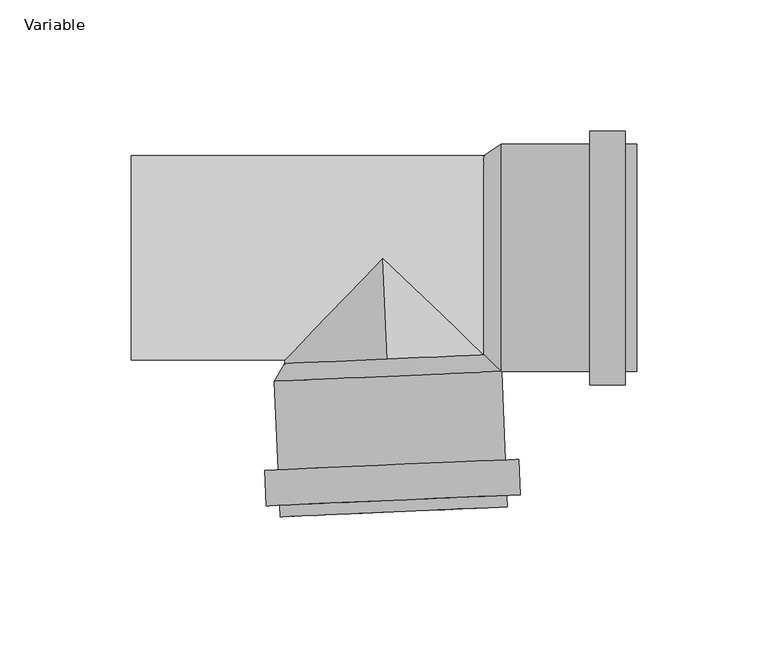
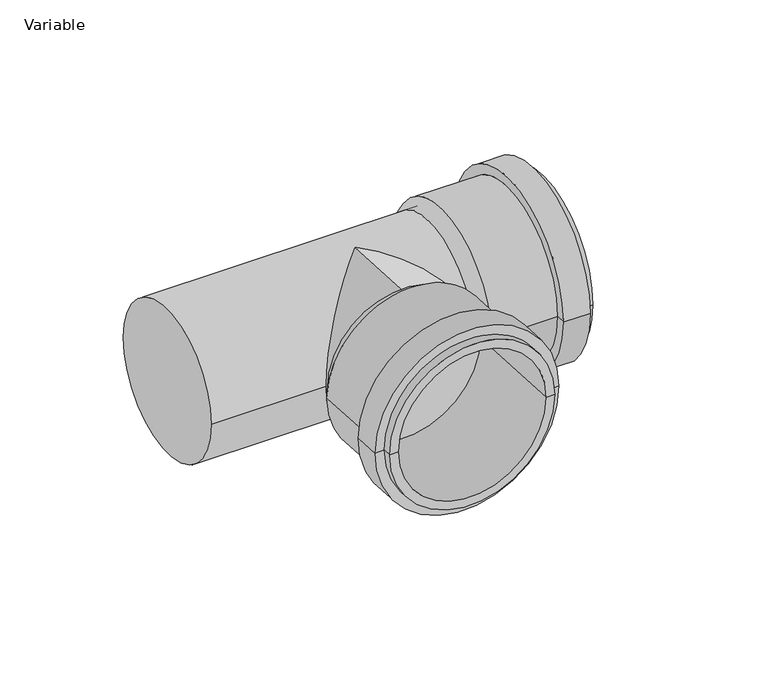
"""IFC4 building model written with IfcOpenShell, lengths in millimetres: pipe fitting geometry, AliaxisFR_Friaphon_Branch_FR : Variable."""

from ifc_helpers import new_model, si_unit, frame, origin, place, context, project, spatial, polyline, circle_curve, ellipse_curve, source, transform, mapped, element, save
from ifc_brep_helpers import plane_surface, cylinder_surface, revolved_surface, advanced_brep


def variable_031db8d6(model_context):
    return source(origin(), model_context, "Body", "AdvancedBrep", [
        advanced_brep(
        [(-39.1276122, -98.8007589, 0.0), (47.5897734, -95.0145961, 0.0), (43.1939612, -95.2065214, 0.0), (-34.7318001, -98.6088336, 0.0), (-45.0079071, -81.0403498, 0.0), (51.8997703, -76.8092692, 0.0), (52.492994, -90.396325, 0.0), (-44.4146835, -94.6274056, 0.0), (-39.9127612, -80.8178909, 0.0), (46.8046244, -77.0317281, 0.0), (-41.3870965, -47.050061, 0.0), (45.3302891, -43.2638982, 0.0), (40.646589, -36.8621052, 0.0), (-37.2791723, -40.2644175, 0.0), (-39.3195375, -94.4049467, 0.0), (47.3978481, -90.6187839, 0.0)],
        [
            (0, 1, circle_curve(frame((4.2310806, -96.9076775, 0.0), z_axis=(0.04361938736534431, -0.9990482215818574, 0.0), x_axis=(0.9990482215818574, 0.04361938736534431, 0.0)), 43.4)),
            (1, 2),
            (2, 3, circle_curve(frame((4.2310806, -96.9076775, 0.0), z_axis=(-0.04361938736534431, 0.9990482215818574, 0.0), x_axis=(0.9990482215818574, 0.04361938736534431, 0.0)), 39.0)),
            (3, 0),
            (1, 0, circle_curve(frame((4.2310806, -96.9076775, 0.0), z_axis=(0.04361938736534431, -0.9990482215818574, 0.0), x_axis=(0.9990482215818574, 0.04361938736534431, 0.0)), 43.4)),
            (3, 2, circle_curve(frame((4.2310806, -96.9076775, 0.0), z_axis=(-0.04361938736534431, 0.9990482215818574, 0.0), x_axis=(0.9990482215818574, 0.04361938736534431, 0.0)), 39.0)),
            (4, 5, circle_curve(frame((3.4459316, -78.9248095, 0.0), z_axis=(0.04361938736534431, -0.9990482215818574, 0.0), x_axis=(0.9990482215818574, 0.04361938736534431, 0.0)), 48.5)),
            (5, 6),
            (6, 7, circle_curve(frame((4.0391553, -92.5118653, 0.0), z_axis=(-0.04361938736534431, 0.9990482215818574, 0.0), x_axis=(0.9990482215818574, 0.04361938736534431, 0.0)), 48.5)),
            (7, 4),
            (5, 4, circle_curve(frame((3.4459316, -78.9248095, 0.0), z_axis=(0.04361938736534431, -0.9990482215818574, 0.0), x_axis=(0.9990482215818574, 0.04361938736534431, 0.0)), 48.5)),
            (7, 6, circle_curve(frame((4.0391553, -92.5118653, 0.0), z_axis=(-0.04361938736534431, 0.9990482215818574, 0.0), x_axis=(0.9990482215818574, 0.04361938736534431, 0.0)), 48.5)),
            (8, 9, circle_curve(frame((3.4459316, -78.9248095, 0.0), z_axis=(0.04361938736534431, -0.9990482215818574, 0.0), x_axis=(0.9990482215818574, 0.04361938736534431, 0.0)), 43.4)),
            (9, 5),
            (4, 8),
            (9, 8, circle_curve(frame((3.4459316, -78.9248095, 0.0), z_axis=(0.04361938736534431, -0.9990482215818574, 0.0), x_axis=(0.9990482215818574, 0.04361938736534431, 0.0)), 43.4)),
            (10, 11, circle_curve(frame((1.9715963, -45.1569796, 0.0), z_axis=(0.04361938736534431, -0.9990482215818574, 0.0), x_axis=(0.9990482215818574, 0.04361938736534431, 0.0)), 43.4)),
            (11, 9),
            (8, 10),
            (11, 10, circle_curve(frame((1.9715963, -45.1569796, 0.0), z_axis=(0.04361938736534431, -0.9990482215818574, 0.0), x_axis=(0.9990482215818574, 0.04361938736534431, 0.0)), 43.4)),
            (2, 12),
            (12, 13, circle_curve(frame((1.6837084, -38.5632614, 0.0), z_axis=(-0.04361938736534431, 0.9990482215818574, 0.0), x_axis=(0.9990482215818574, 0.04361938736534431, 0.0)), 39.0)),
            (13, 3),
            (13, 12, circle_curve(frame((1.6837084, -38.5632614, 0.0), z_axis=(-0.04361938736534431, 0.9990482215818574, 0.0), x_axis=(0.9990482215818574, 0.04361938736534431, 0.0)), 39.0)),
            (12, 11),
            (10, 13),
            (14, 15, circle_curve(frame((4.0391553, -92.5118653, 0.0), z_axis=(0.04361938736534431, -0.9990482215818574, 0.0), x_axis=(0.9990482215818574, 0.04361938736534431, 0.0)), 43.4)),
            (15, 1),
            (0, 14),
            (15, 14, circle_curve(frame((4.0391553, -92.5118653, 0.0), z_axis=(0.04361938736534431, -0.9990482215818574, 0.0), x_axis=(0.9990482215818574, 0.04361938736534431, 0.0)), 43.4)),
            (6, 15),
            (14, 7),
        ],
        [
            plane_surface(frame((4.2310806, -96.9076775, 0.0), z_axis=(0.04361938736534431, -0.9990482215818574, 0.0), x_axis=(0.9990482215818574, 0.04361938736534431, 0.0))),
            cylinder_surface(frame((1.6837084, -38.5632614, 0.0), z_axis=(-0.04361938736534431, 0.9990482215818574, 0.0), x_axis=(0.9990482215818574, 0.04361938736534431, 0.0)), 48.5),
            plane_surface(frame((3.4459316, -78.9248095, 0.0), z_axis=(-0.04361938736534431, 0.9990482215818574, 0.0), x_axis=(0.9990482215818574, 0.04361938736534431, 0.0))),
            cylinder_surface(frame((1.6837084, -38.5632614, 0.0), z_axis=(-0.04361938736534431, 0.9990482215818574, 0.0), x_axis=(0.9990482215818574, 0.04361938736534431, 0.0)), 43.4),
            revolved_surface(polyline([(40.6465890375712, -36.86210519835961, 0.0), (43.19396126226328, -95.20652139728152, 0.0)]), (1.6837084, -38.5632614, 0.0), (-0.04361938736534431, 0.9990482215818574, 0.0)),
            revolved_surface(polyline([(45.3302891, -43.2638982, 0.0), (40.646589, -36.8621052, 0.0)]), (1.6837084, -38.5632614, 0.0), (-0.04361938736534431, 0.9990482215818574, 0.0)),
            plane_surface(frame((4.0391553, -92.5118653, 0.0), z_axis=(0.04361938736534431, -0.9990482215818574, 0.0), x_axis=(0.9990482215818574, 0.04361938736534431, 0.0))),
        ],
        [
            (0, [[1, 2, 3, 4]]),
            (0, [[5, -4, 6, -2]]),
            (1, [[7, 8, 9, 10]]),
            (1, [[11, -10, 12, -8]]),
            (2, [[13, 14, -7, 15]]),
            (2, [[16, -15, -11, -14]]),
            (3, [[17, 18, -13, 19]]),
            (3, [[20, -19, -16, -18]]),
            (4, [[-3, 21, 22, 23]]),
            (4, [[-6, -23, 24, -21]]),
            (5, [[-22, 25, -17, 26]]),
            (5, [[-24, -26, -20, -25]]),
            (3, [[27, 28, -1, 29]]),
            (3, [[30, -29, -5, -28]]),
            (6, [[-9, 31, -27, 32]]),
            (6, [[-12, -32, -30, -31]]),
        ],
    ),
        advanced_brep(
        [(97.0, -43.4, 0.0), (97.0, 43.4, 0.0), (97.0, 39.0, 0.0), (97.0, -39.0, 0.0), (79.0, -48.5, 0.0), (79.0, 48.5, 0.0), (92.6, 48.5, 0.0), (92.6, -48.5, 0.0), (79.0, -43.4, 0.0), (79.0, 43.4, 0.0), (45.2, -43.4, 0.0), (45.2, 43.4, 0.0), (38.6, 39.0, 0.0), (38.6, -39.0, 0.0), (92.6, -43.4, 0.0), (92.6, 43.4, 0.0)],
        [
            (0, 1, circle_curve(frame((97.0, 0.0, 0.0), z_axis=(1.0, 0.0, 0.0), x_axis=(0.0, 1.0, 0.0)), 43.4)),
            (1, 2),
            (2, 3, circle_curve(frame((97.0, 0.0, 0.0), z_axis=(-1.0, 0.0, 0.0), x_axis=(0.0, 1.0, 0.0)), 39.0)),
            (3, 0),
            (1, 0, circle_curve(frame((97.0, 0.0, 0.0), z_axis=(1.0, 0.0, 0.0), x_axis=(0.0, 1.0, 0.0)), 43.4)),
            (3, 2, circle_curve(frame((97.0, 0.0, 0.0), z_axis=(-1.0, 0.0, 0.0), x_axis=(0.0, 1.0, 0.0)), 39.0)),
            (4, 5, circle_curve(frame((79.0, 0.0, 0.0), z_axis=(1.0, 0.0, 0.0), x_axis=(0.0, 1.0, 0.0)), 48.5)),
            (5, 6),
            (6, 7, circle_curve(frame((92.6, 0.0, 0.0), z_axis=(-1.0, 0.0, 0.0), x_axis=(0.0, 1.0, 0.0)), 48.5)),
            (7, 4),
            (5, 4, circle_curve(frame((79.0, 0.0, 0.0), z_axis=(1.0, 0.0, 0.0), x_axis=(0.0, 1.0, 0.0)), 48.5)),
            (7, 6, circle_curve(frame((92.6, 0.0, 0.0), z_axis=(-1.0, 0.0, 0.0), x_axis=(0.0, 1.0, 0.0)), 48.5)),
            (8, 9, circle_curve(frame((79.0, 0.0, 0.0), z_axis=(1.0, 0.0, 0.0), x_axis=(0.0, 1.0, 0.0)), 43.4)),
            (9, 5),
            (4, 8),
            (9, 8, circle_curve(frame((79.0, 0.0, 0.0), z_axis=(1.0, 0.0, 0.0), x_axis=(0.0, 1.0, 0.0)), 43.4)),
            (10, 11, circle_curve(frame((45.2, 0.0, 0.0), z_axis=(1.0, 0.0, 0.0), x_axis=(0.0, 1.0, 0.0)), 43.4)),
            (11, 9),
            (8, 10),
            (11, 10, circle_curve(frame((45.2, 0.0, 0.0), z_axis=(1.0, 0.0, 0.0), x_axis=(0.0, 1.0, 0.0)), 43.4)),
            (2, 12),
            (12, 13, circle_curve(frame((38.6, 0.0, 0.0), z_axis=(-1.0, 0.0, 0.0), x_axis=(0.0, 1.0, 0.0)), 39.0)),
            (13, 3),
            (13, 12, circle_curve(frame((38.6, 0.0, 0.0), z_axis=(-1.0, 0.0, 0.0), x_axis=(0.0, 1.0, 0.0)), 39.0)),
            (12, 11),
            (10, 13),
            (14, 15, circle_curve(frame((92.6, 0.0, 0.0), z_axis=(1.0, 0.0, 0.0), x_axis=(0.0, 1.0, 0.0)), 43.4)),
            (15, 1),
            (0, 14),
            (15, 14, circle_curve(frame((92.6, 0.0, 0.0), z_axis=(1.0, 0.0, 0.0), x_axis=(0.0, 1.0, 0.0)), 43.4)),
            (6, 15),
            (14, 7),
        ],
        [
            plane_surface(frame((97.0, 0.0, 0.0), z_axis=(1.0, 0.0, 0.0), x_axis=(0.0, 1.0, 0.0))),
            cylinder_surface(frame((38.6, 0.0, 0.0), z_axis=(-1.0, 0.0, 0.0), x_axis=(0.0, 1.0, 0.0)), 48.5),
            plane_surface(frame((79.0, 0.0, 0.0), z_axis=(-1.0, 0.0, 0.0), x_axis=(0.0, 1.0, 0.0))),
            cylinder_surface(frame((38.6, 0.0, 0.0), z_axis=(-1.0, 0.0, 0.0), x_axis=(0.0, 1.0, 0.0)), 43.4),
            revolved_surface(polyline([(38.6, 39.0, 0.0), (97.0, 39.0, 0.0)]), (38.6, 0.0, 0.0), (-1.0, 0.0, 0.0)),
            revolved_surface(polyline([(45.2, 43.4, 0.0), (38.6, 39.0, 0.0)]), (38.6, 0.0, 0.0), (-1.0, 0.0, 0.0)),
            plane_surface(frame((92.6, 0.0, 0.0), z_axis=(1.0, 0.0, 0.0), x_axis=(0.0, 1.0, 0.0))),
        ],
        [
            (0, [[1, 2, 3, 4]]),
            (0, [[5, -4, 6, -2]]),
            (1, [[7, 8, 9, 10]]),
            (1, [[11, -10, 12, -8]]),
            (2, [[13, 14, -7, 15]]),
            (2, [[16, -15, -11, -14]]),
            (3, [[17, 18, -13, 19]]),
            (3, [[20, -19, -16, -18]]),
            (4, [[-3, 21, 22, 23]]),
            (4, [[-6, -23, 24, -21]]),
            (5, [[-22, 25, -17, 26]]),
            (5, [[-24, -26, -20, -25]]),
            (3, [[27, 28, -1, 29]]),
            (3, [[30, -29, -5, -28]]),
            (6, [[-9, 31, -27, 32]]),
            (6, [[-12, -32, -30, -31]]),
        ],
    ),
        advanced_brep(
        [(43.0, -39.0, 0.0), (43.0, 39.0, 0.0), (-96.0, -39.0, 0.0), (-96.0, 39.0, 0.0), (40.7399315, -39.0, 0.0), (0.0, 0.0, -39.0), (-37.3343779, -39.0, 0.0), (0.0, 0.0, 39.0), (1.8756337, -42.9590735, -39.0), (1.8756337, -42.9590735, 39.0)],
        [
            (0, 1, circle_curve(frame((43.0, 0.0, 0.0), z_axis=(1.0, 0.0, 0.0), x_axis=(0.0, 1.0, 0.0)), 39.0)),
            (1, 0, circle_curve(frame((43.0, 0.0, 0.0), z_axis=(1.0, 0.0, 0.0), x_axis=(0.0, 1.0, 0.0)), 39.0)),
            (2, 3, circle_curve(frame((-96.0, 0.0, 0.0), z_axis=(-1.0, 0.0, 0.0), x_axis=(0.0, 1.0, 0.0)), 39.0)),
            (3, 2, circle_curve(frame((-96.0, 0.0, 0.0), z_axis=(-1.0, 0.0, 0.0), x_axis=(0.0, 1.0, 0.0)), 39.0)),
            (0, 4),
            (4, 5, ellipse_curve(frame((0.0, 0.0, 0.0), z_axis=(0.6915130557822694, 0.7223639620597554, 0.0), x_axis=(0.7223639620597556, -0.6915130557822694, 0.0)), 56.3980675, 39.0)),
            (5, 6, ellipse_curve(frame((0.0, 0.0, 0.0), z_axis=(-0.7223639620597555, 0.6915130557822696, 0.0), x_axis=(0.6915130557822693, 0.7223639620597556, 0.0)), 53.9894043, 39.0)),
            (6, 2),
            (3, 1),
            (6, 7, ellipse_curve(frame((0.0, 0.0, 0.0), z_axis=(-0.7223639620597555, 0.6915130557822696, 0.0), x_axis=(0.6915130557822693, 0.7223639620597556, 0.0)), 53.9894043, 39.0)),
            (7, 4, ellipse_curve(frame((0.0, 0.0, 0.0), z_axis=(0.6915130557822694, 0.7223639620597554, 0.0), x_axis=(0.7223639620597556, -0.6915130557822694, 0.0)), 56.3980675, 39.0)),
            (8, 9, circle_curve(frame((1.8756337, -42.9590735, 0.0), z_axis=(0.043619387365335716, -0.9990482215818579, 0.0), x_axis=(0.0, 0.0, 1.0)), 39.0)),
            (9, 8, circle_curve(frame((1.8756337, -42.9590735, 0.0), z_axis=(0.043619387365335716, -0.9990482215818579, 0.0), x_axis=(0.0, 0.0, 1.0)), 39.0)),
            (8, 5),
            (7, 9),
        ],
        [
            plane_surface(frame((43.0, 39.0, 0.0), z_axis=(1.0, 0.0, 0.0), x_axis=(0.0, 0.0, 1.0))),
            plane_surface(frame((-96.0, 39.0, 0.0), z_axis=(-1.0, 0.0, 0.0), x_axis=(0.0, 0.0, -1.0))),
            cylinder_surface(frame((-96.0, 0.0, 0.0), z_axis=(1.0, 0.0, 0.0), x_axis=(0.0, 1.0, 0.0)), 39.0),
            plane_surface(frame((1.8756337, -42.9590735, 39.0), z_axis=(0.043619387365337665, -0.9990482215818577, 0.0), x_axis=(-0.9990482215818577, -0.043619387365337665, 0.0))),
            cylinder_surface(frame((1.8756337, -42.9590735, 0.0), z_axis=(-0.043619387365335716, 0.9990482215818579, 0.0), x_axis=(0.0, 0.0, 1.0)), 39.0),
        ],
        [
            (0, [[1, 2]]),
            (1, [[3, 4]]),
            (2, [[-1, 5, 6, 7, 8, -4, 9]]),
            (2, [[-2, -9, -3, -8, 10, 11, -5]]),
            (3, [[12, 13]]),
            (4, [[-12, 14, -6, -11, 15]]),
            (4, [[-13, -15, -10, -7, -14]]),
        ],
    ),
    ])


if __name__ == "__main__":
    model = new_model("IFC4")
    model_context = context("Model", 3, world=origin())
    ifc_project = project(units=[si_unit("LENGTHUNIT", "METRE", prefix="MILLI")], contexts=[model_context])
    site = spatial("IfcSite", under=ifc_project)
    building = spatial("IfcBuilding", under=site)
    placement = place(None, origin())
    variable_shape = variable_031db8d6(model_context)
    element("IfcPipeFitting", 1, ObjectType="AliaxisFR_Friaphon_Branch_FR : Variable", at=placement, inside=building, context=model_context, shape_type="MappedRepresentation", body=[
        mapped(variable_shape, transform((0.0, 0.0, 0.0), x_axis=(1.0, 0.0, 0.0), y_axis=(0.0, 1.0, 0.0), z_axis=(0.0, 0.0, 1.0))),
    ])
    save(model, "model.ifc")
